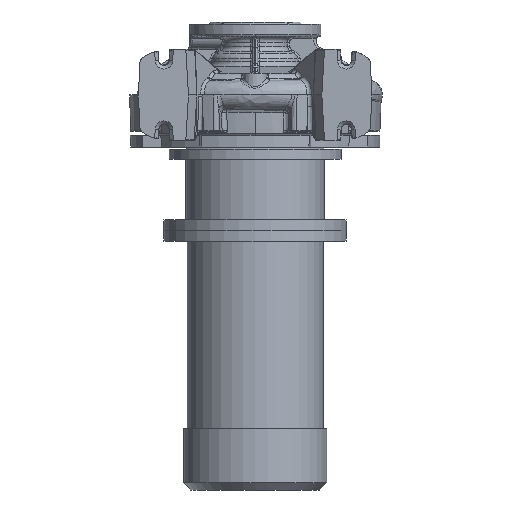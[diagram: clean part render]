
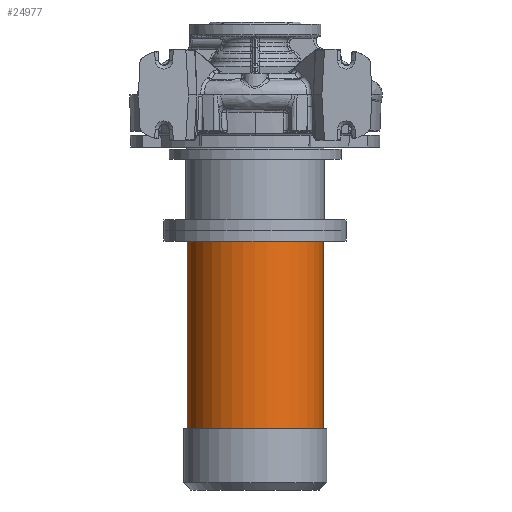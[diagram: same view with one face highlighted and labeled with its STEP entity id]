
A CAD part, front view. The second image highlights one B-rep face of the part: STEP entity #24977.
In plain terms, the highlighted cylindrical face has radius 93 mm (diameter 186 mm), a partial arc.
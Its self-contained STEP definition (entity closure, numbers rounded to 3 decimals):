
#2315 = AXIS2_PLACEMENT_3D ( 'NONE', #86211, #24052, #10242 ) ;
#3621 = DIRECTION ( 'NONE',  ( -1., 0., 0. ) ) ;
#4404 = EDGE_CURVE ( 'NONE', #15434, #66752, #71060, .T. ) ;
#5236 = CARTESIAN_POINT ( 'NONE',  ( -93., 0., -457.3 ) ) ;
#10242 = DIRECTION ( 'NONE',  ( -1., 0., 0. ) ) ;
#10734 = CARTESIAN_POINT ( 'NONE',  ( -93., 0., -541.3 ) ) ;
#10765 = ORIENTED_EDGE ( 'NONE', *, *, #82032, .T. ) ;
#12490 = CIRCLE ( 'NONE', #2315, 93. ) ;
#14204 = ORIENTED_EDGE ( 'NONE', *, *, #81364, .T. ) ;
#15434 = VERTEX_POINT ( 'NONE', #63255 ) ;
#15945 = LINE ( 'NONE', #10734, #68529 ) ;
#19053 = CARTESIAN_POINT ( 'NONE',  ( -93., 0., -200.3 ) ) ;
#23747 = VERTEX_POINT ( 'NONE', #19053 ) ;
#24052 = DIRECTION ( 'NONE',  ( 0., 0., -1. ) ) ;
#24977 = ADVANCED_FACE ( 'NONE', ( #51189 ), #35076, .T. ) ;
#25815 = ORIENTED_EDGE ( 'NONE', *, *, #77790, .F. ) ;
#27456 = CARTESIAN_POINT ( 'NONE',  ( 93., 0., -541.3 ) ) ;
#29119 = VECTOR ( 'NONE', #33803, 1000. ) ;
#33803 = DIRECTION ( 'NONE',  ( 0., 0., -1. ) ) ;
#35076 = CYLINDRICAL_SURFACE ( 'NONE', #86838, 93. ) ;
#36244 = DIRECTION ( 'NONE',  ( -1., 0., 0. ) ) ;
#38482 = VERTEX_POINT ( 'NONE', #5236 ) ;
#39187 = EDGE_LOOP ( 'NONE', ( #85139, #10765, #14204, #25815 ) ) ;
#48722 = AXIS2_PLACEMENT_3D ( 'NONE', #77414, #49471, #36244 ) ;
#49471 = DIRECTION ( 'NONE',  ( 0., 0., -1. ) ) ;
#51189 = FACE_OUTER_BOUND ( 'NONE', #39187, .T. ) ;
#57652 = CIRCLE ( 'NONE', #48722, 93. ) ;
#63255 = CARTESIAN_POINT ( 'NONE',  ( 93., 0., -200.3 ) ) ;
#66752 = VERTEX_POINT ( 'NONE', #82236 ) ;
#68529 = VECTOR ( 'NONE', #86393, 1000. ) ;
#71060 = LINE ( 'NONE', #27456, #29119 ) ;
#71472 = CARTESIAN_POINT ( 'NONE',  ( 0., 0., -541.3 ) ) ;
#77414 = CARTESIAN_POINT ( 'NONE',  ( 0., 0., -457.3 ) ) ;
#77790 = EDGE_CURVE ( 'NONE', #66752, #38482, #57652, .T. ) ;
#81364 = EDGE_CURVE ( 'NONE', #23747, #38482, #15945, .T. ) ;
#82032 = EDGE_CURVE ( 'NONE', #15434, #23747, #12490, .T. ) ;
#82236 = CARTESIAN_POINT ( 'NONE',  ( 93., 0., -457.3 ) ) ;
#85139 = ORIENTED_EDGE ( 'NONE', *, *, #4404, .F. ) ;
#85888 = DIRECTION ( 'NONE',  ( 0., 0., -1. ) ) ;
#86211 = CARTESIAN_POINT ( 'NONE',  ( 0., 0., -200.3 ) ) ;
#86393 = DIRECTION ( 'NONE',  ( 0., 0., -1. ) ) ;
#86838 = AXIS2_PLACEMENT_3D ( 'NONE', #71472, #85888, #3621 ) ;
